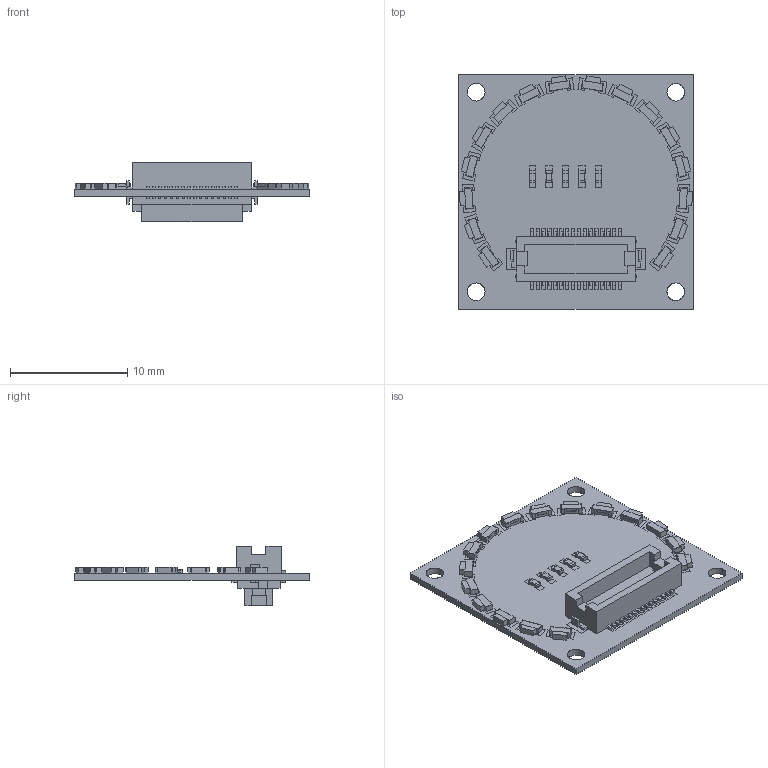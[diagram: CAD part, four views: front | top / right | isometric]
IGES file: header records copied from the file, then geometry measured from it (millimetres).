
Global section: file name: Filename.iges; native system: Open CASCADE 7.4; preprocessor: Open CASCADE IGES processor 7.4; date: 20200709.004735; units: millimetre
Bounding box: 20 x 20 x 5.1 mm (x, y, z)
Surface area: 2851.8 mm2 (no closed solid volume)
Topology: 0 solids, 0 shells, 3380 faces, 15724 edges, 15674 vertices
Faces by surface type: plane 3356, revolution 24
